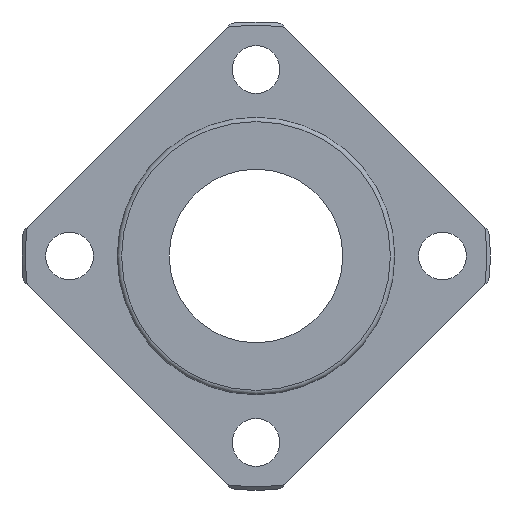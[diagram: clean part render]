
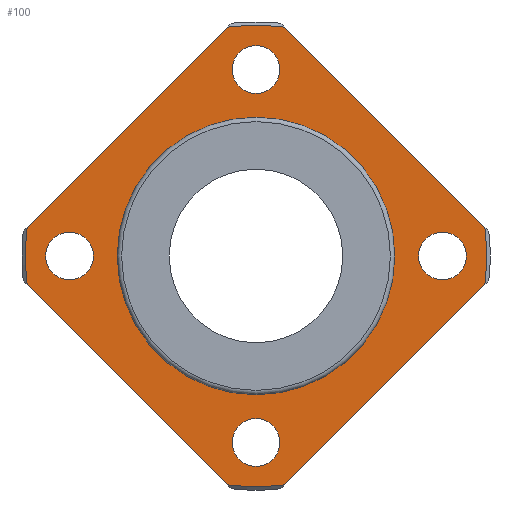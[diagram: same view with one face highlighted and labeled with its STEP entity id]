
A CAD part, left-side view. The second image highlights one B-rep face of the part: STEP entity #100.
In plain terms, the highlighted planar face has unit normal (-1, 0, 0).
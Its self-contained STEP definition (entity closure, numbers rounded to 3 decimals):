
#100=ADVANCED_FACE('',(#188,#189,#190,#191,#192,#193),#194,.T.);
#188=FACE_BOUND('',#303,.T.);
#189=FACE_BOUND('',#304,.T.);
#190=FACE_BOUND('',#305,.T.);
#191=FACE_BOUND('',#306,.T.);
#192=FACE_BOUND('',#307,.T.);
#193=FACE_OUTER_BOUND('',#308,.T.);
#194=PLANE('',#309);
#303=EDGE_LOOP('',(#511));
#304=EDGE_LOOP('',(#512));
#305=EDGE_LOOP('',(#513));
#306=EDGE_LOOP('',(#514));
#307=EDGE_LOOP('',(#515));
#308=EDGE_LOOP('',(#516,#517,#518,#519,#520,#521,#522,#523));
#309=AXIS2_PLACEMENT_3D('',#524,#525,#526);
#511=ORIENTED_EDGE('',*,*,#685,.T.);
#512=ORIENTED_EDGE('',*,*,#686,.T.);
#513=ORIENTED_EDGE('',*,*,#687,.T.);
#514=ORIENTED_EDGE('',*,*,#684,.T.);
#515=ORIENTED_EDGE('',*,*,#673,.T.);
#516=ORIENTED_EDGE('',*,*,#651,.F.);
#517=ORIENTED_EDGE('',*,*,#626,.T.);
#518=ORIENTED_EDGE('',*,*,#688,.F.);
#519=ORIENTED_EDGE('',*,*,#645,.T.);
#520=ORIENTED_EDGE('',*,*,#689,.F.);
#521=ORIENTED_EDGE('',*,*,#637,.T.);
#522=ORIENTED_EDGE('',*,*,#690,.F.);
#523=ORIENTED_EDGE('',*,*,#691,.T.);
#524=CARTESIAN_POINT('',(-8.0,21.05,0.0));
#525=DIRECTION('',(-1.0,0.,0.));
#526=DIRECTION('',(0.,0.0,1.0));
#626=EDGE_CURVE('',#707,#705,#708,.T.);
#637=EDGE_CURVE('',#728,#726,#729,.T.);
#645=EDGE_CURVE('',#743,#741,#744,.T.);
#651=EDGE_CURVE('',#707,#752,#753,.T.);
#673=EDGE_CURVE('',#791,#791,#792,.T.);
#684=EDGE_CURVE('',#813,#813,#814,.T.);
#685=EDGE_CURVE('',#815,#815,#816,.T.);
#686=EDGE_CURVE('',#817,#817,#818,.T.);
#687=EDGE_CURVE('',#819,#819,#820,.T.);
#688=EDGE_CURVE('',#743,#705,#821,.T.);
#689=EDGE_CURVE('',#728,#741,#822,.T.);
#690=EDGE_CURVE('',#823,#726,#824,.T.);
#691=EDGE_CURVE('',#823,#752,#825,.T.);
#705=VERTEX_POINT('',#846);
#707=VERTEX_POINT('',#851);
#708=LINE('',#852,#853);
#726=VERTEX_POINT('',#886);
#728=VERTEX_POINT('',#891);
#729=LINE('',#892,#893);
#741=VERTEX_POINT('',#917);
#743=VERTEX_POINT('',#922);
#744=LINE('',#923,#924);
#752=VERTEX_POINT('',#936);
#753=CIRCLE('',#937,26.6);
#791=VERTEX_POINT('',#980);
#792=CIRCLE('',#981,15.5);
#813=VERTEX_POINT('',#1002);
#814=CIRCLE('',#1003,2.75);
#815=VERTEX_POINT('',#1004);
#816=CIRCLE('',#1005,2.75);
#817=VERTEX_POINT('',#1006);
#818=CIRCLE('',#1007,2.75);
#819=VERTEX_POINT('',#1008);
#820=CIRCLE('',#1009,2.75);
#821=CIRCLE('',#1010,26.6);
#822=CIRCLE('',#1011,26.6);
#823=VERTEX_POINT('',#1012);
#824=CIRCLE('',#1013,26.6);
#825=LINE('',#1014,#1015);
#846=CARTESIAN_POINT('',(-8.0,3.305,-26.394));
#851=CARTESIAN_POINT('',(-8.0,26.394,-3.305));
#852=CARTESIAN_POINT('',(-8.0,25.374,-4.324));
#853=VECTOR('',#1036,1.0);
#886=CARTESIAN_POINT('',(-8.0,-3.305,26.394));
#891=CARTESIAN_POINT('',(-8.0,-26.394,3.305));
#892=CARTESIAN_POINT('',(-8.0,-4.324,25.374));
#893=VECTOR('',#1046,1.0);
#917=CARTESIAN_POINT('',(-8.0,-26.394,-3.305));
#922=CARTESIAN_POINT('',(-8.0,-3.305,-26.394));
#923=CARTESIAN_POINT('',(-8.0,-4.324,-25.374));
#924=VECTOR('',#1050,1.0);
#936=CARTESIAN_POINT('',(-8.0,26.394,3.305));
#937=AXIS2_PLACEMENT_3D('',#1061,#1062,#1063);
#980=CARTESIAN_POINT('',(-8.0,15.5,0.0));
#981=AXIS2_PLACEMENT_3D('',#1120,#1121,#1122);
#1002=CARTESIAN_POINT('',(-8.0,21.5,2.75));
#1003=AXIS2_PLACEMENT_3D('',#1153,#1154,#1155);
#1004=CARTESIAN_POINT('',(-8.0,0.0,24.25));
#1005=AXIS2_PLACEMENT_3D('',#1156,#1157,#1158);
#1006=CARTESIAN_POINT('',(-8.0,-21.5,2.75));
#1007=AXIS2_PLACEMENT_3D('',#1159,#1160,#1161);
#1008=CARTESIAN_POINT('',(-8.0,0.0,-18.75));
#1009=AXIS2_PLACEMENT_3D('',#1162,#1163,#1164);
#1010=AXIS2_PLACEMENT_3D('',#1165,#1166,#1167);
#1011=AXIS2_PLACEMENT_3D('',#1168,#1169,#1170);
#1012=CARTESIAN_POINT('',(-8.0,3.305,26.394));
#1013=AXIS2_PLACEMENT_3D('',#1171,#1172,#1173);
#1014=CARTESIAN_POINT('',(-8.0,25.374,4.324));
#1015=VECTOR('',#1174,1.0);
#1036=DIRECTION('',(0.,-0.707,-0.707));
#1046=DIRECTION('',(0.,0.707,0.707));
#1050=DIRECTION('',(0.,-0.707,0.707));
#1061=CARTESIAN_POINT('',(-8.0,0.0,0.0));
#1062=DIRECTION('',(1.0,0.0,0.));
#1063=DIRECTION('',(0.0,1.0,0.0));
#1120=CARTESIAN_POINT('',(-8.0,0.0,0.0));
#1121=DIRECTION('',(1.0,0.0,0.));
#1122=DIRECTION('',(0.0,1.0,0.0));
#1153=CARTESIAN_POINT('',(-8.0,21.5,0.));
#1154=DIRECTION('',(1.0,0.,0.));
#1155=DIRECTION('',(0.,0.0,-1.0));
#1156=CARTESIAN_POINT('',(-8.0,0.0,21.5));
#1157=DIRECTION('',(1.0,0.,0.));
#1158=DIRECTION('',(0.,0.0,-1.0));
#1159=CARTESIAN_POINT('',(-8.0,-21.5,0.));
#1160=DIRECTION('',(1.0,0.,0.));
#1161=DIRECTION('',(0.,0.0,-1.0));
#1162=CARTESIAN_POINT('',(-8.0,0.0,-21.5));
#1163=DIRECTION('',(1.0,0.,0.));
#1164=DIRECTION('',(0.,0.0,-1.0));
#1165=CARTESIAN_POINT('',(-8.0,0.0,0.0));
#1166=DIRECTION('',(1.0,0.0,0.));
#1167=DIRECTION('',(0.0,1.0,0.0));
#1168=CARTESIAN_POINT('',(-8.0,0.0,0.0));
#1169=DIRECTION('',(1.0,0.0,0.));
#1170=DIRECTION('',(0.0,1.0,0.0));
#1171=CARTESIAN_POINT('',(-8.0,0.0,0.0));
#1172=DIRECTION('',(1.0,0.0,0.));
#1173=DIRECTION('',(0.0,1.0,0.0));
#1174=DIRECTION('',(0.,0.707,-0.707));
